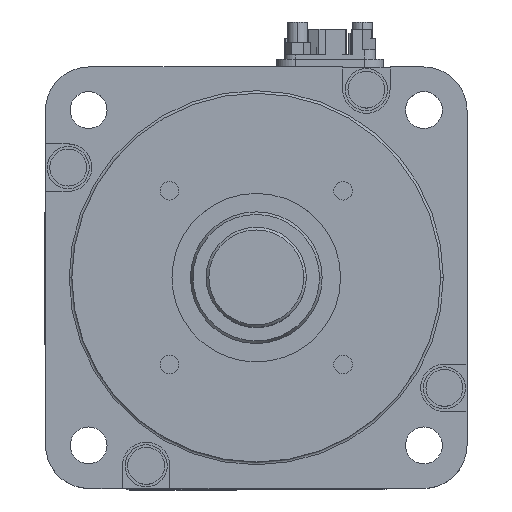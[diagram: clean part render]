
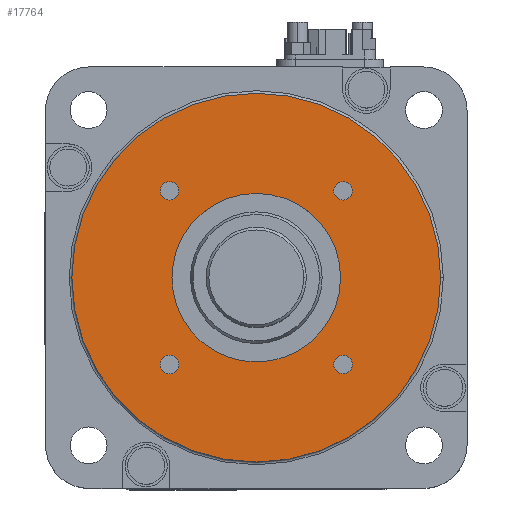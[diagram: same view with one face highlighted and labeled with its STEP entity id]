
A CAD part, top view. The second image highlights one B-rep face of the part: STEP entity #17764.
In plain terms, the highlighted planar face has unit normal (0, 0, 1).
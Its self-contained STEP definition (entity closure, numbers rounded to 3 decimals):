
#2 = AXIS2_PLACEMENT_3D ( 'NONE', #14399, #12272, #8639 ) ;
#138 = CARTESIAN_POINT ( 'NONE',  ( -16.476, -16.476, 3. ) ) ;
#160 = FACE_BOUND ( 'NONE', #24171, .T. ) ;
#590 = ORIENTED_EDGE ( 'NONE', *, *, #22644, .F. ) ;
#968 = DIRECTION ( 'NONE',  ( 1., 0., 0. ) ) ;
#1571 = AXIS2_PLACEMENT_3D ( 'NONE', #23138, #2467, #17398 ) ;
#1676 = EDGE_LOOP ( 'NONE', ( #2329, #590 ) ) ;
#1807 = EDGE_CURVE ( 'NONE', #7587, #21388, #2656, .T. ) ;
#1910 = DIRECTION ( 'NONE',  ( 0., 0., 1. ) ) ;
#2329 = ORIENTED_EDGE ( 'NONE', *, *, #2812, .F. ) ;
#2379 = EDGE_CURVE ( 'NONE', #4571, #6573, #23499, .T. ) ;
#2467 = DIRECTION ( 'NONE',  ( 0., 0., 1. ) ) ;
#2489 = AXIS2_PLACEMENT_3D ( 'NONE', #24149, #15454, #21055 ) ;
#2656 = CIRCLE ( 'NONE', #14038, 1.75 ) ;
#2812 = EDGE_CURVE ( 'NONE', #22804, #13123, #20868, .T. ) ;
#2890 = PLANE ( 'NONE',  #4563 ) ;
#2974 = CARTESIAN_POINT ( 'NONE',  ( 16.476, -16.476, 3. ) ) ;
#3006 = EDGE_CURVE ( 'NONE', #14575, #19183, #8198, .T. ) ;
#3189 = CIRCLE ( 'NONE', #5774, 1.75 ) ;
#3274 = CARTESIAN_POINT ( 'NONE',  ( 18.226, -16.476, 3. ) ) ;
#3968 = EDGE_CURVE ( 'NONE', #21388, #7587, #18682, .T. ) ;
#4272 = DIRECTION ( 'NONE',  ( 0., 0., 1. ) ) ;
#4563 = AXIS2_PLACEMENT_3D ( 'NONE', #17469, #16069, #968 ) ;
#4571 = VERTEX_POINT ( 'NONE', #14323 ) ;
#4707 = DIRECTION ( 'NONE',  ( 0., 0., 1. ) ) ;
#4909 = FACE_BOUND ( 'NONE', #8701, .T. ) ;
#4968 = DIRECTION ( 'NONE',  ( 0., 0., 1. ) ) ;
#5343 = DIRECTION ( 'NONE',  ( 0., 0., 1. ) ) ;
#5563 = AXIS2_PLACEMENT_3D ( 'NONE', #138, #11427, #13457 ) ;
#5774 = AXIS2_PLACEMENT_3D ( 'NONE', #22594, #1910, #22669 ) ;
#6180 = CARTESIAN_POINT ( 'NONE',  ( 16.476, -16.476, 3. ) ) ;
#6573 = VERTEX_POINT ( 'NONE', #17366 ) ;
#6947 = CIRCLE ( 'NONE', #5563, 1.75 ) ;
#7366 = CIRCLE ( 'NONE', #19369, 16. ) ;
#7587 = VERTEX_POINT ( 'NONE', #20389 ) ;
#8198 = CIRCLE ( 'NONE', #11097, 1.75 ) ;
#8267 = ORIENTED_EDGE ( 'NONE', *, *, #1807, .F. ) ;
#8639 = DIRECTION ( 'NONE',  ( 1., 0., 0. ) ) ;
#8701 = EDGE_LOOP ( 'NONE', ( #14352, #9611 ) ) ;
#8747 = EDGE_LOOP ( 'NONE', ( #12949, #8267 ) ) ;
#9367 = FACE_BOUND ( 'NONE', #23728, .T. ) ;
#9391 = CIRCLE ( 'NONE', #2489, 35. ) ;
#9414 = VERTEX_POINT ( 'NONE', #18832 ) ;
#9611 = ORIENTED_EDGE ( 'NONE', *, *, #11975, .F. ) ;
#9728 = DIRECTION ( 'NONE',  ( 1., 0., 0. ) ) ;
#9948 = FACE_BOUND ( 'NONE', #1676, .T. ) ;
#10141 = AXIS2_PLACEMENT_3D ( 'NONE', #6180, #4272, #21174 ) ;
#10178 = EDGE_CURVE ( 'NONE', #23400, #16840, #14333, .T. ) ;
#10254 = ORIENTED_EDGE ( 'NONE', *, *, #3006, .F. ) ;
#10780 = CARTESIAN_POINT ( 'NONE',  ( 0., 0., 3. ) ) ;
#11097 = AXIS2_PLACEMENT_3D ( 'NONE', #17652, #15826, #14028 ) ;
#11427 = DIRECTION ( 'NONE',  ( 0., 0., 1. ) ) ;
#11807 = CARTESIAN_POINT ( 'NONE',  ( 0., 0., 3. ) ) ;
#11975 = EDGE_CURVE ( 'NONE', #6573, #4571, #7366, .T. ) ;
#12272 = DIRECTION ( 'NONE',  ( 0., 0., 1. ) ) ;
#12577 = DIRECTION ( 'NONE',  ( 1., 0., 0. ) ) ;
#12828 = CARTESIAN_POINT ( 'NONE',  ( -14.726, 16.476, 3. ) ) ;
#12949 = ORIENTED_EDGE ( 'NONE', *, *, #3968, .F. ) ;
#13123 = VERTEX_POINT ( 'NONE', #16350 ) ;
#13136 = ORIENTED_EDGE ( 'NONE', *, *, #18287, .T. ) ;
#13227 = EDGE_CURVE ( 'NONE', #23673, #9414, #9391, .T. ) ;
#13457 = DIRECTION ( 'NONE',  ( 1., 0., 0. ) ) ;
#14028 = DIRECTION ( 'NONE',  ( 1., 0., 0. ) ) ;
#14038 = AXIS2_PLACEMENT_3D ( 'NONE', #2974, #4707, #12577 ) ;
#14323 = CARTESIAN_POINT ( 'NONE',  ( 16., 0., 3. ) ) ;
#14333 = CIRCLE ( 'NONE', #1571, 1.75 ) ;
#14352 = ORIENTED_EDGE ( 'NONE', *, *, #2379, .F. ) ;
#14399 = CARTESIAN_POINT ( 'NONE',  ( -16.476, 16.476, 3. ) ) ;
#14575 = VERTEX_POINT ( 'NONE', #23667 ) ;
#14589 = CIRCLE ( 'NONE', #19846, 35. ) ;
#15337 = EDGE_CURVE ( 'NONE', #19183, #14575, #6947, .T. ) ;
#15454 = DIRECTION ( 'NONE',  ( 0., 0., 1. ) ) ;
#15557 = DIRECTION ( 'NONE',  ( 0., 0., 1. ) ) ;
#15716 = ORIENTED_EDGE ( 'NONE', *, *, #17063, .F. ) ;
#15826 = DIRECTION ( 'NONE',  ( 0., 0., 1. ) ) ;
#16069 = DIRECTION ( 'NONE',  ( 0., 0., 1. ) ) ;
#16350 = CARTESIAN_POINT ( 'NONE',  ( -18.226, 16.476, 3. ) ) ;
#16417 = ORIENTED_EDGE ( 'NONE', *, *, #13227, .T. ) ;
#16506 = CIRCLE ( 'NONE', #2, 1.75 ) ;
#16528 = CARTESIAN_POINT ( 'NONE',  ( 14.726, 16.476, 3. ) ) ;
#16840 = VERTEX_POINT ( 'NONE', #16528 ) ;
#17039 = CARTESIAN_POINT ( 'NONE',  ( -18.226, -16.476, 3. ) ) ;
#17063 = EDGE_CURVE ( 'NONE', #16840, #23400, #3189, .T. ) ;
#17140 = DIRECTION ( 'NONE',  ( 0., 0., 1. ) ) ;
#17284 = FACE_OUTER_BOUND ( 'NONE', #17879, .T. ) ;
#17366 = CARTESIAN_POINT ( 'NONE',  ( -16., 0., 3. ) ) ;
#17398 = DIRECTION ( 'NONE',  ( 1., 0., 0. ) ) ;
#17469 = CARTESIAN_POINT ( 'NONE',  ( 0., 0., 3. ) ) ;
#17652 = CARTESIAN_POINT ( 'NONE',  ( -16.476, -16.476, 3. ) ) ;
#17706 = CARTESIAN_POINT ( 'NONE',  ( 35., 0., 3. ) ) ;
#17764 = ADVANCED_FACE ( 'NONE', ( #18776, #9367, #9948, #160, #4909, #17284 ), #2890, .T. ) ;
#17879 = EDGE_LOOP ( 'NONE', ( #13136, #16417 ) ) ;
#18287 = EDGE_CURVE ( 'NONE', #9414, #23673, #14589, .T. ) ;
#18313 = AXIS2_PLACEMENT_3D ( 'NONE', #24182, #5343, #20446 ) ;
#18682 = CIRCLE ( 'NONE', #10141, 1.75 ) ;
#18776 = FACE_BOUND ( 'NONE', #8747, .T. ) ;
#18832 = CARTESIAN_POINT ( 'NONE',  ( -35., 0., 3. ) ) ;
#18954 = CARTESIAN_POINT ( 'NONE',  ( -16.476, 16.476, 3. ) ) ;
#19039 = DIRECTION ( 'NONE',  ( 1., 0., 0. ) ) ;
#19183 = VERTEX_POINT ( 'NONE', #17039 ) ;
#19369 = AXIS2_PLACEMENT_3D ( 'NONE', #11807, #15557, #9728 ) ;
#19846 = AXIS2_PLACEMENT_3D ( 'NONE', #10780, #4968, #23887 ) ;
#19923 = AXIS2_PLACEMENT_3D ( 'NONE', #18954, #17140, #19039 ) ;
#20389 = CARTESIAN_POINT ( 'NONE',  ( 14.726, -16.476, 3. ) ) ;
#20446 = DIRECTION ( 'NONE',  ( 1., 0., 0. ) ) ;
#20868 = CIRCLE ( 'NONE', #19923, 1.75 ) ;
#21055 = DIRECTION ( 'NONE',  ( 1., 0., 0. ) ) ;
#21174 = DIRECTION ( 'NONE',  ( 1., 0., 0. ) ) ;
#21388 = VERTEX_POINT ( 'NONE', #3274 ) ;
#21534 = ORIENTED_EDGE ( 'NONE', *, *, #10178, .F. ) ;
#21854 = ORIENTED_EDGE ( 'NONE', *, *, #15337, .F. ) ;
#22384 = CARTESIAN_POINT ( 'NONE',  ( 18.226, 16.476, 3. ) ) ;
#22594 = CARTESIAN_POINT ( 'NONE',  ( 16.476, 16.476, 3. ) ) ;
#22644 = EDGE_CURVE ( 'NONE', #13123, #22804, #16506, .T. ) ;
#22669 = DIRECTION ( 'NONE',  ( 1., 0., 0. ) ) ;
#22804 = VERTEX_POINT ( 'NONE', #12828 ) ;
#23138 = CARTESIAN_POINT ( 'NONE',  ( 16.476, 16.476, 3. ) ) ;
#23400 = VERTEX_POINT ( 'NONE', #22384 ) ;
#23499 = CIRCLE ( 'NONE', #18313, 16. ) ;
#23667 = CARTESIAN_POINT ( 'NONE',  ( -14.726, -16.476, 3. ) ) ;
#23673 = VERTEX_POINT ( 'NONE', #17706 ) ;
#23728 = EDGE_LOOP ( 'NONE', ( #10254, #21854 ) ) ;
#23887 = DIRECTION ( 'NONE',  ( 1., 0., 0. ) ) ;
#24149 = CARTESIAN_POINT ( 'NONE',  ( 0., 0., 3. ) ) ;
#24171 = EDGE_LOOP ( 'NONE', ( #21534, #15716 ) ) ;
#24182 = CARTESIAN_POINT ( 'NONE',  ( 0., 0., 3. ) ) ;
